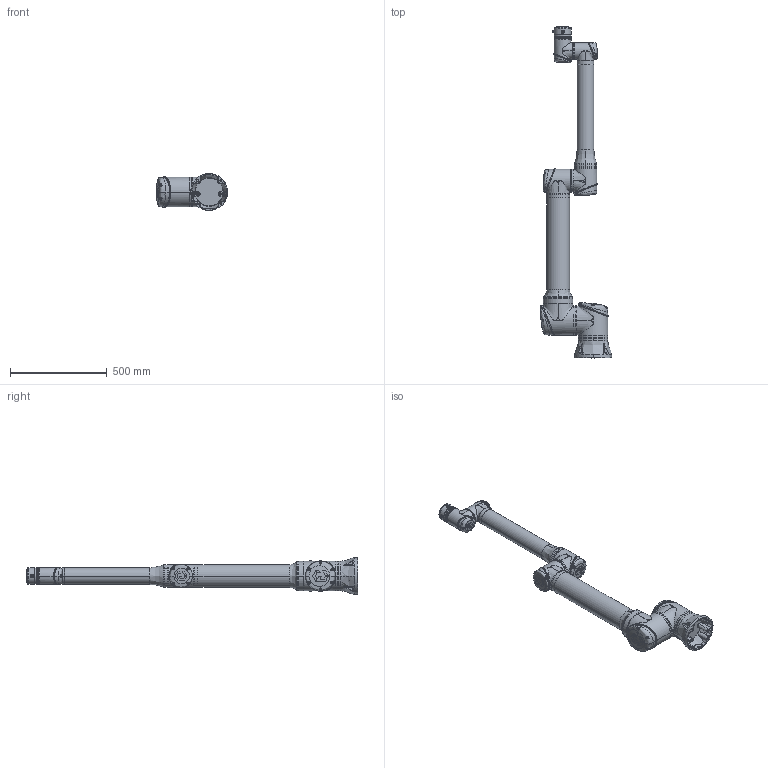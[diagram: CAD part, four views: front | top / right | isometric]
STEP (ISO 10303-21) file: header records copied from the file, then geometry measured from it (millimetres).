
FILE_DESCRIPTION (( 'STEP AP203' ), '1' );
FILE_NAME ('CS_掛极CS610A_V1.3.STEP', '2026-07-27T06:42:53', ( '' ), ( '' ), 'SwSTEP 2.0', 'SolidWorks 2020', '' );
FILE_SCHEMA (( 'CONFIG_CONTROL_DESIGN' ));
Length unit declared in the file: millimetre
Products named in the file (8): CS610A_Link2; CS_掛极CS610A_V1.3; CS610A_Base; CS610A_Link5; CS610A_Link3; CS610A_Link4; CS610A_Link1; CS610A-Flange
Assembly tree (7 placements, depth 2):
  CS_掛极CS610A_V1.3
    CS610A_Base
    CS610A_Link1
    CS610A_Link2
    CS610A_Link3
    CS610A_Link4
    CS610A_Link5
    CS610A-Flange
Bounding box: 366.83 x 1711.5 x 189.7 mm (x, y, z)
Volume: 23019679.6 mm3; surface area: 1446161.8 mm2
Topology: 82 solids, 105 shells, 5482 faces, 13148 edges, 7858 vertices
Faces by surface type: bspline 2276, plane 1403, cylinder 1086, cone 408, torus 190, sphere 119
Entity records: 547348 total; most frequent: CARTESIAN_POINT 439347, ORIENTED_EDGE 25690, DIRECTION 17480, EDGE_CURVE 12845, VERTEX_POINT 7835, AXIS2_PLACEMENT_3D 7264, EDGE_LOOP 5834, FACE_OUTER_BOUND 5483
